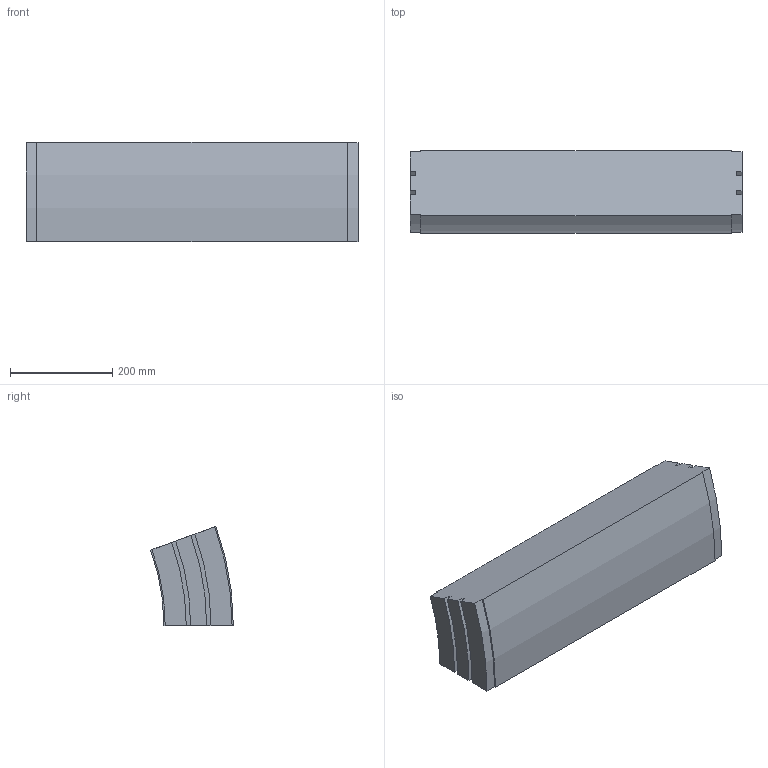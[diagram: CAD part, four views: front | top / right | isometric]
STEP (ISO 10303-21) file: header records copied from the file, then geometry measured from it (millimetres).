
FILE_DESCRIPTION (( 'STEP AP214' ), '1' );
FILE_NAME ('02.150V20.650.N FS-650-MTC-150 Bocht verticaal 20°.STEP', '2013-03-29T13:23:48', ( 'Gebruiker' ), ( '' ), 'SwSTEP 2.0', 'SolidWorks 2012', '' );
FILE_SCHEMA (( 'AUTOMOTIVE_DESIGN' ));
Length unit declared in the file: millimetre
Products named in the file (1): 02.150V20.650.N FS-650-MTC-150 Bocht verticaal 20°
Bounding box: 650.5 x 162.05 x 194.27 mm (x, y, z)
Volume: 15338651.6 mm3; surface area: 465667.2 mm2
Topology: 1 solids, 1 shells, 30 faces, 84 edges, 56 vertices
Faces by surface type: plane 16, cylinder 14
Entity records: 1010 total; most frequent: DIRECTION 174, CARTESIAN_POINT 171, ORIENTED_EDGE 168, EDGE_CURVE 84, AXIS2_PLACEMENT_3D 59, LINE 56, VECTOR 56, VERTEX_POINT 56
